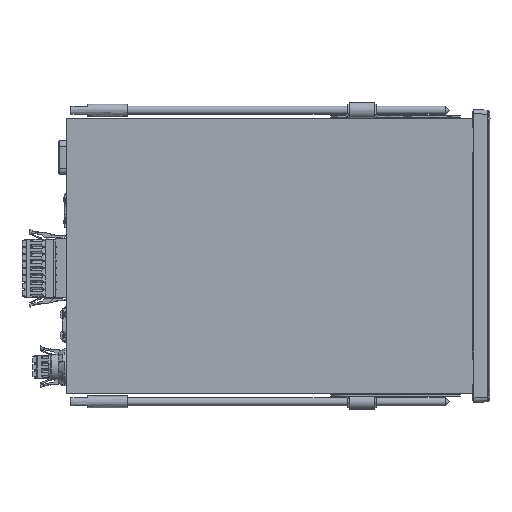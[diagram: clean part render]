
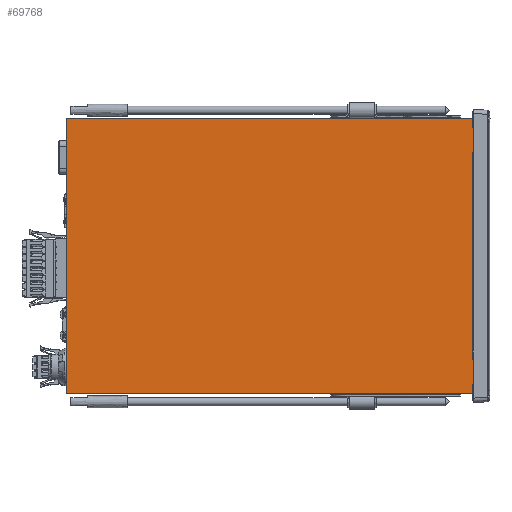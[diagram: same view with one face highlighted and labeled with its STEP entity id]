
A CAD part, top view. The second image highlights one B-rep face of the part: STEP entity #69768.
In plain terms, the highlighted free-form (B-spline) face has degree [1, 1] with [2, 2] control points.
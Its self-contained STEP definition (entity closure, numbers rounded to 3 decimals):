
#8853=DIRECTION('',(0.,1.,0.));
#8854=VECTOR('',#8853,135.5);
#8855=CARTESIAN_POINT('',(0.,-67.75,32.75));
#8856=LINE('',#8855,#8854);
#8999=DIRECTION('',(0.,1.,0.));
#9000=VECTOR('',#8999,4.35);
#9001=CARTESIAN_POINT('',(200.2,63.4,32.75));
#9002=LINE('',#9001,#9000);
#9003=DIRECTION('',(0.,1.,0.));
#9004=VECTOR('',#9003,12.5);
#9005=CARTESIAN_POINT('',(202.4,50.9,32.75));
#9006=LINE('',#9005,#9004);
#9007=DIRECTION('',(1.,0.,0.));
#9008=VECTOR('',#9007,2.2);
#9009=CARTESIAN_POINT('',(200.2,50.9,32.75));
#9010=LINE('',#9009,#9008);
#9011=DIRECTION('',(0.,1.,0.));
#9012=VECTOR('',#9011,101.8);
#9013=CARTESIAN_POINT('',(200.2,-50.9,32.75));
#9014=LINE('',#9013,#9012);
#9015=DIRECTION('',(0.,1.,0.));
#9016=VECTOR('',#9015,12.5);
#9017=CARTESIAN_POINT('',(202.4,-63.4,32.75));
#9018=LINE('',#9017,#9016);
#9019=DIRECTION('',(1.,0.,0.));
#9020=VECTOR('',#9019,2.2);
#9021=CARTESIAN_POINT('',(200.2,-63.4,32.75));
#9022=LINE('',#9021,#9020);
#9023=DIRECTION('',(0.,1.,0.));
#9024=VECTOR('',#9023,4.35);
#9025=CARTESIAN_POINT('',(200.2,-67.75,32.75));
#9026=LINE('',#9025,#9024);
#9027=DIRECTION('',(1.,0.,0.));
#9028=VECTOR('',#9027,200.2);
#9029=CARTESIAN_POINT('',(0.,-67.75,32.75));
#9030=LINE('',#9029,#9028);
#9076=DIRECTION('',(1.,0.,0.));
#9077=VECTOR('',#9076,200.2);
#9078=CARTESIAN_POINT('',(0.,67.75,32.75));
#9079=LINE('',#9078,#9077);
#11565=DIRECTION('',(1.,0.,0.));
#11566=VECTOR('',#11565,2.2);
#11567=CARTESIAN_POINT('',(200.2,63.4,32.75));
#11568=LINE('',#11567,#11566);
#11605=DIRECTION('',(1.,0.,0.));
#11606=VECTOR('',#11605,2.2);
#11607=CARTESIAN_POINT('',(200.2,-50.9,32.75));
#11608=LINE('',#11607,#11606);
#45554=CARTESIAN_POINT('',(200.2,-50.9,32.75));
#45555=CARTESIAN_POINT('',(202.4,-50.9,32.75));
#45556=VERTEX_POINT('',#45554);
#45557=VERTEX_POINT('',#45555);
#45558=CARTESIAN_POINT('',(202.4,50.9,32.75));
#45559=CARTESIAN_POINT('',(202.4,63.4,32.75));
#45560=VERTEX_POINT('',#45558);
#45561=VERTEX_POINT('',#45559);
#45562=CARTESIAN_POINT('',(0.,67.75,32.75));
#45563=CARTESIAN_POINT('',(200.2,67.75,32.75));
#45564=VERTEX_POINT('',#45562);
#45565=VERTEX_POINT('',#45563);
#45578=CARTESIAN_POINT('',(202.4,-63.4,32.75));
#45579=VERTEX_POINT('',#45578);
#45580=CARTESIAN_POINT('',(200.2,63.4,32.75));
#45581=VERTEX_POINT('',#45580);
#45582=CARTESIAN_POINT('',(200.2,50.9,32.75));
#45583=VERTEX_POINT('',#45582);
#45588=CARTESIAN_POINT('',(200.2,-63.4,32.75));
#45589=VERTEX_POINT('',#45588);
#45634=CARTESIAN_POINT('',(0.,-67.75,32.75));
#45635=CARTESIAN_POINT('',(200.2,-67.75,32.75));
#45636=VERTEX_POINT('',#45634);
#45637=VERTEX_POINT('',#45635);
#69740=CARTESIAN_POINT('',(-4.048,-70.46,32.75));
#69741=CARTESIAN_POINT('',(206.448,-70.46,32.75));
#69742=CARTESIAN_POINT('',(-4.048,70.46,32.75));
#69743=CARTESIAN_POINT('',(206.448,70.46,32.75));
#69744=B_SPLINE_SURFACE_WITH_KNOTS('',1,1,((#69740,#69741),(#69742,#69743)),
.UNSPECIFIED.,.F.,.F.,.F.,(2,2),(2,2),(-138.21,2.71),(-210.548,-0.052),
.UNSPECIFIED.);
#69746=ORIENTED_EDGE('',*,*,#69745,.F.);
#69748=ORIENTED_EDGE('',*,*,#69747,.T.);
#69750=ORIENTED_EDGE('',*,*,#69749,.F.);
#69752=ORIENTED_EDGE('',*,*,#69751,.F.);
#69754=ORIENTED_EDGE('',*,*,#69753,.F.);
#69756=ORIENTED_EDGE('',*,*,#69755,.T.);
#69758=ORIENTED_EDGE('',*,*,#69757,.F.);
#69760=ORIENTED_EDGE('',*,*,#69759,.F.);
#69761=ORIENTED_EDGE('',*,*,#69725,.F.);
#69762=ORIENTED_EDGE('',*,*,#69702,.F.);
#69763=ORIENTED_EDGE('',*,*,#69610,.T.);
#69765=ORIENTED_EDGE('',*,*,#69764,.T.);
#69766=EDGE_LOOP('',(#69746,#69748,#69750,#69752,#69754,#69756,#69758,#69760,
#69761,#69762,#69763,#69765));
#69767=FACE_OUTER_BOUND('',#69766,.F.);
#69768=ADVANCED_FACE('',(#69767),#69744,.F.);
#69610=EDGE_CURVE('',#45636,#45564,#8856,.T.);
#69702=EDGE_CURVE('',#45636,#45637,#9030,.T.);
#69725=EDGE_CURVE('',#45637,#45589,#9026,.T.);
#69745=EDGE_CURVE('',#45581,#45565,#9002,.T.);
#69747=EDGE_CURVE('',#45581,#45561,#11568,.T.);
#69749=EDGE_CURVE('',#45560,#45561,#9006,.T.);
#69751=EDGE_CURVE('',#45583,#45560,#9010,.T.);
#69753=EDGE_CURVE('',#45556,#45583,#9014,.T.);
#69755=EDGE_CURVE('',#45556,#45557,#11608,.T.);
#69757=EDGE_CURVE('',#45579,#45557,#9018,.T.);
#69759=EDGE_CURVE('',#45589,#45579,#9022,.T.);
#69764=EDGE_CURVE('',#45564,#45565,#9079,.T.);
